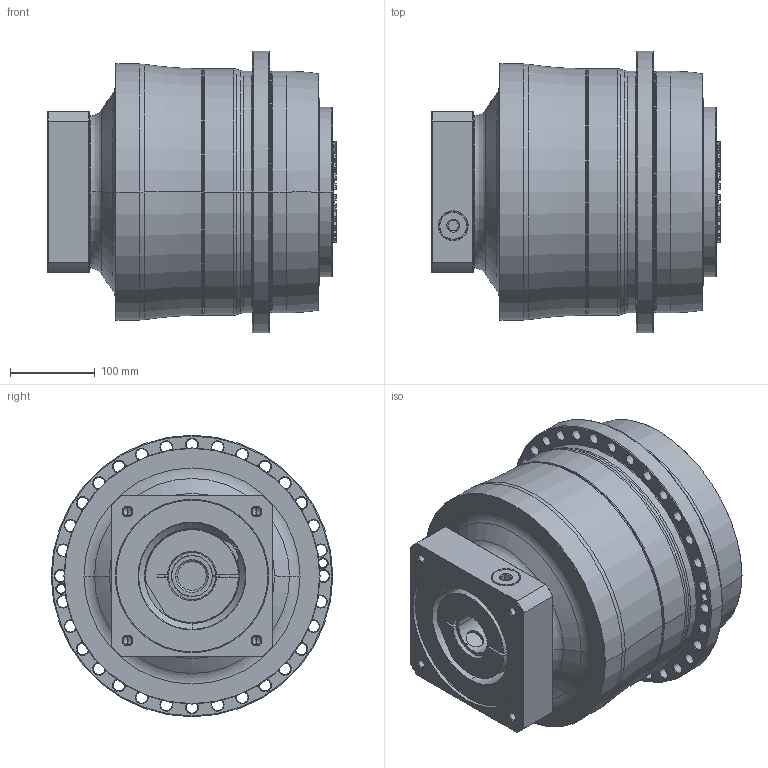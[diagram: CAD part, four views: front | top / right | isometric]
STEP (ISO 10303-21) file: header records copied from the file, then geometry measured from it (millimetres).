
FILE_DESCRIPTION((''),'2;1');
FILE_NAME('APC285_2ST_48-P0409B10201_ASM','2018-06-29T',('d01226'),(''),'PRO/ENGINEER BY PARAMETRIC TECHNOLOGY CORPORATION, 2008410','PRO/ENGINEER BY PARAMETRIC TECHNOLOGY CORPORATION, 2008410','');
FILE_SCHEMA(('CONFIG_CONTROL_DESIGN'));
Length unit declared in the file: millimetre
Products named in the file (9): P0278801003; P03598G0103; P1317810301; P0503B00016; P0912753001; P1211800001; P0409B10201; 21711426021; APC285_2ST_48-P0409B10201_ASM
Assembly tree (8 placements, depth 2):
  APC285_2ST_48-P0409B10201_ASM
    P0278801003
    P03598G0103
    P1317810301
    P0503B00016
    P0912753001
    P1211800001
    P0409B10201
    21711426021
Bounding box: 340.6 x 332 x 332 mm (x, y, z)
Volume: 17793919.1 mm3; surface area: 1056586.6 mm2
Topology: 9 solids, 21 shells, 815 faces, 2005 edges, 1229 vertices
Faces by surface type: cone 286, cylinder 237, plane 146, torus 130, bspline 16
Entity records: 29884 total; most frequent: CARTESIAN_POINT 10170, DIRECTION 4395, ORIENTED_EDGE 3924, EDGE_CURVE 1987, AXIS2_PLACEMENT_3D 1928, VERTEX_POINT 1229, CIRCLE 1100, EDGE_LOOP 938
